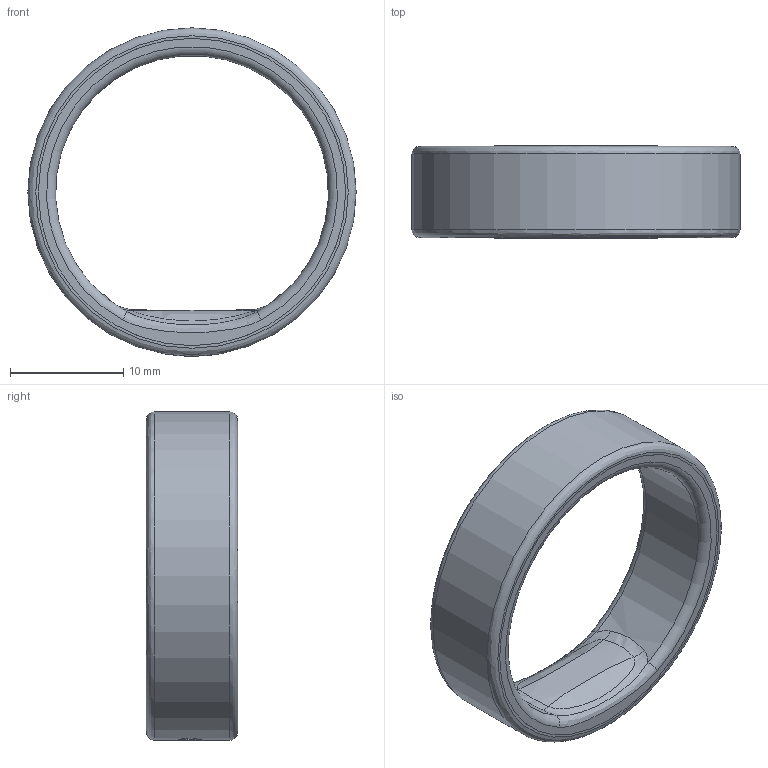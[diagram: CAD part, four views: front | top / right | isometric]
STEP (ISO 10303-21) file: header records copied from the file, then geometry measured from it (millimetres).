
FILE_DESCRIPTION(/* description */ (''),/* implementation_level */ '2;1');
FILE_NAME(/* name */ 'Size 13_Sizing Kit v5.step',/* time_stamp */ '2024-05-07T15:31:29+05:30',/* author */ (''),/* organization */ (''),/* preprocessor_version */ 'ST-DEVELOPER v20',/* originating_system */ 'Autodesk Translation Framework v12.20.1.177',/* authorisation */ '');
FILE_SCHEMA (('AUTOMOTIVE_DESIGN { 1 0 10303 214 3 1 1 }'));
Length unit declared in the file: millimetre
Products named in the file (1): Size 13_Sizing Kit
Bounding box: 29.05 x 8.1 x 29.05 mm (x, y, z)
Volume: 1690.5 mm3; surface area: 1896.3 mm2
Topology: 1 solids, 3 shells, 234 faces, 686 edges, 462 vertices
Faces by surface type: bspline 170, plane 54, cylinder 8, torus 2
Full cylindrical faces by diameter (mm): 27.198 x2, 27.199 x2, 29.052 x1
Entity records: 16055 total; most frequent: CARTESIAN_POINT 10977, ORIENTED_EDGE 1372, EDGE_CURVE 686, DIRECTION 494, VERTEX_POINT 462, B_SPLINE_CURVE_WITH_KNOTS 379, LINE 250, VECTOR 250
